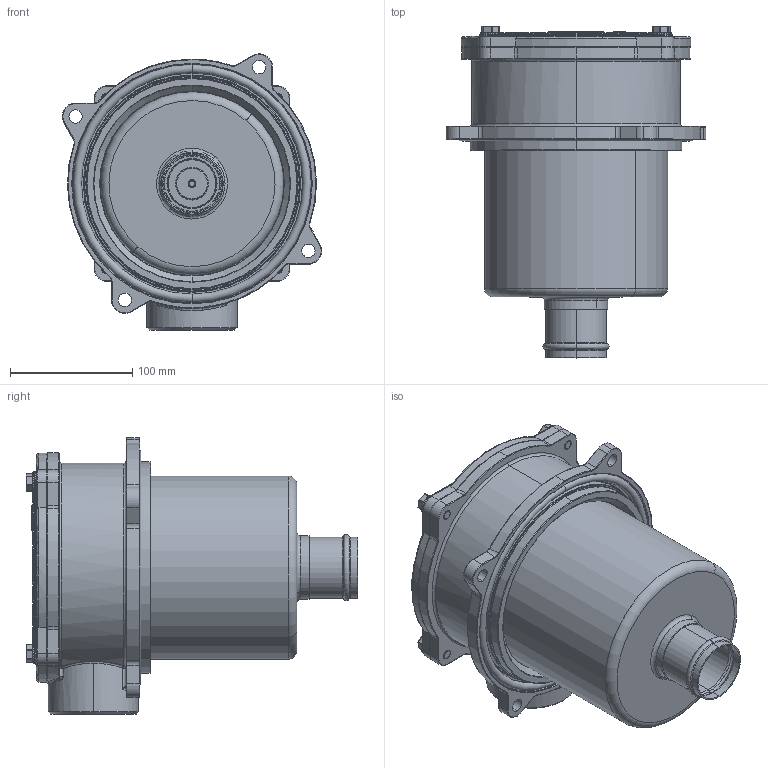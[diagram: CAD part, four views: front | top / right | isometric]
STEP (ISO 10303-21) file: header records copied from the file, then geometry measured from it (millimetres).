
FILE_DESCRIPTION (( 'STEP AP203' ), '1' );
FILE_NAME ('OMTF221-NA1.STEP', '2015-07-24T06:32:58', ( '' ), ( '' ), 'SwSTEP 2.0', 'SolidWorks 2015', '' );
FILE_SCHEMA (( 'CONFIG_CONTROL_DESIGN' ));
Length unit declared in the file: millimetre
Products named in the file (13): OR6200; OR221; VI-8020; D22-01-1; OMTF22-05-1; OMTF22-02-A; OMTF22-04-1; GR18-GC; OMTF22-03-1-C; OR4675; OMTF221-NA1; OR233; OMTF-MOLLA-4
Assembly tree (15 placements, depth 3):
  OMTF221-NA1
    D22-01-1
    OMTF22-02-A
    GR18-GC
    OR4675
    OR233
    OMTF-MOLLA-4
    OR6200
    OR221
    VI-8020  x4
    OMTF22-03-1-C
      OMTF22-05-1
      OMTF22-04-1
Bounding box: 212.53 x 271.66 x 226.26 mm (x, y, z)
Volume: 821179.7 mm3; surface area: 491397 mm2
Topology: 14 solids, 14 shells, 1102 faces, 2530 edges, 1472 vertices
Faces by surface type: plane 366, cylinder 351, torus 302, bspline 49, cone 26, sphere 8
Entity records: 34413 total; most frequent: CARTESIAN_POINT 10877, DIRECTION 4985, ORIENTED_EDGE 4460, EDGE_CURVE 2230, AXIS2_PLACEMENT_3D 2058, VERTEX_POINT 1310, CIRCLE 1112, EDGE_LOOP 1016
